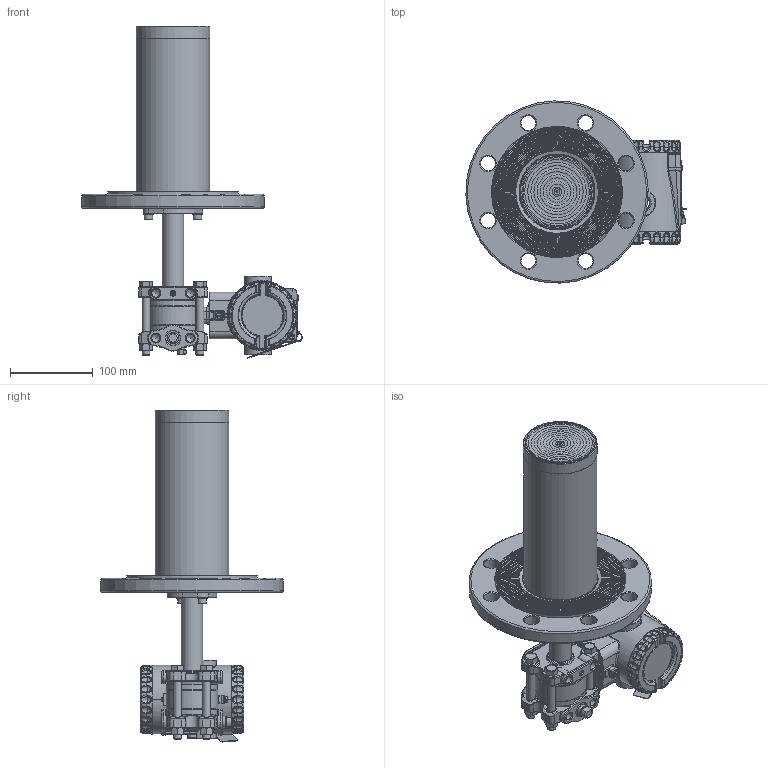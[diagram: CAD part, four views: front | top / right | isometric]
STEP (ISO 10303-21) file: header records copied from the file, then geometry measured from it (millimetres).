
FILE_DESCRIPTION(/* description */ (''),/* implementation_level */ '2;1');
FILE_NAME(/* name */ 'F:\Area\Desenvolvimento_2\Projects\Sensor\projetos\LD400-3d\dimensionais 3D clientes\LD400L\LD400L DN100 PN16 RF ext 200 ref 1-4NPT purga acima.stp',/* time_stamp */ '2023-02-23T17:28:36-03:00',/* author */ ('inventor02'),/* organization */ (''),/* preprocessor_version */ 'ST-DEVELOPER v17',/* originating_system */ 'Autodesk Inventor 2019',/* authorisation */ '');
FILE_SCHEMA (('CONFIG_CONTROL_DESIGN'));
Products named in the file (41): LD30XL DN100 PN16 RF ext 200 ref 1-4NPT purga acima; 204-0301-L-DN100 PN16 RF ext 200 purga acima; nivel fx3 com baixa diferencial 1-4NPT purga acima; involucro fx0-3 apos a usinagem final; flange diferencial std purga; 101-C-7484-01 flange selo nivel VR; 201-A-0504-tubo união teste 1; bujao 1-4NPT; Sangria; Porca 3-8 x 16 UNC; Paraf. 3-8 x 16 UNC; adaptação tubo x flanges 1-1-2 a 4pol; 101-B-0161-anel cortado do tubo - teste1; 101-B-0162-flange fixação tubo; ANSI B18.3.1M - M6x1 x 16; DIN 127 - A 6; flange DN100 PN16 ext 200; 096-B-0212-15; 101-B-7702-02 ext 4-200; 101-C-0141-09; Carcaça 400 com tampas e plaqueta sem letras; 101-D-0845-05 carcaça LD400 sem letras; 101-B-3614-03-tampa 400 sem letras; Tampa visor 400 montada sem letras; 101-B-3612-05 tampa visor 400 sem letras; 101-A-6107; oring 2034; 00034775-0; WHW_250; DIN 915 - M6 x 10; Chapa aterramento externo; 201-A-1771-02 inserto terra recartilhado; AS 1969 - ST4,2; ISO 1207 - M4 x 8; ANSI B18.3.1M - M4x0,7 x 8; Subconjunto plaqueta 400; plaqueta 400 em branco; Parafuso da Plaqueta; Rebite da Plaqueta; 096-A-0169-03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
Assembly tree (50 placements, depth 4):
  LD30XL DN100 PN16 RF ext 200 ref 1-4NPT purga acima
    204-0301-L-DN100 PN16 RF ext 200 purga acima
      nivel fx3 com baixa diferencial 1-4NPT purga acima
        involucro fx0-3 apos a usinagem final
        flange diferencial std purga
        101-C-7484-01 flange selo nivel VR
        201-A-0504-tubo união teste 1
        DIN 915 - M6 x 10
        bujao 1-4NPT
        Sangria
        Porca 3-8 x 16 UNC  x4
        Paraf. 3-8 x 16 UNC  x4
      adaptação tubo x flanges 1-1-2 a 4pol
        101-B-0161-anel cortado do tubo - teste1
        101-B-0162-flange fixação tubo
        ANSI B18.3.1M - M6x1 x 16  x2
        DIN 127 - A 6  x2
      flange DN100 PN16 ext 200
        096-B-0212-15
        101-B-7702-02 ext 4-200
        101-C-0141-09
    Carcaça 400 com tampas e plaqueta sem letras
      101-D-0845-05 carcaça LD400 sem letras
      101-B-3614-03-tampa 400 sem letras
      Tampa visor 400 montada sem letras
        101-B-3612-05 tampa visor 400 sem letras
        101-A-6107
        oring 2034
        00034775-0
        WHW_250
      DIN 915 - M6 x 10
      Chapa aterramento externo
      201-A-1771-02 inserto terra recartilhado
      AS 1969 - ST4,2
      ISO 1207 - M4 x 8
      ANSI B18.3.1M - M4x0,7 x 8  x2
      Subconjunto plaqueta 400
        plaqueta 400 em branco
        Parafuso da Plaqueta
        Rebite da Plaqueta
        096-A-0169-03
        101-A-0502-01
Bounding box: 265.64 x 219.79 x 400.42 mm (x, y, z)
Volume: 1639870 mm3; surface area: 469313.8 mm2
Topology: 43 solids, 43 shells, 2834 faces, 6836 edges, 4113 vertices
Faces by surface type: plane 751, cylinder 668, bspline 604, torus 505, cone 230, sphere 76
Full cylindrical faces by diameter (mm): 2 x4, 2.1 x1, 2.2 x1, 2.459 x3, 2.5 x1, 2.7 x1, 2.8 x1, 3 x4, 3.242 x3, 3.5 x1, 3.571 x1, 4 x5, 4.3 x2, 4.4 x1, 4.917 x4, 5 x1, 5.5 x3, 6 x6, 6.1 x2, 6.2 x1, 6.647 x1, 7 x5, 7.6 x2, 7.798 x4, 8 x1, 9.525 x4, 9.728 x6, 10 x2, 10.5 x8, 10.719 x2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
Entity records: 100426 total; most frequent: CARTESIAN_POINT 37345, DIRECTION 13072, ORIENTED_EDGE 12912, EDGE_CURVE 6456, AXIS2_PLACEMENT_3D 5619, VERTEX_POINT 3919, CIRCLE 3272, EDGE_LOOP 2907
